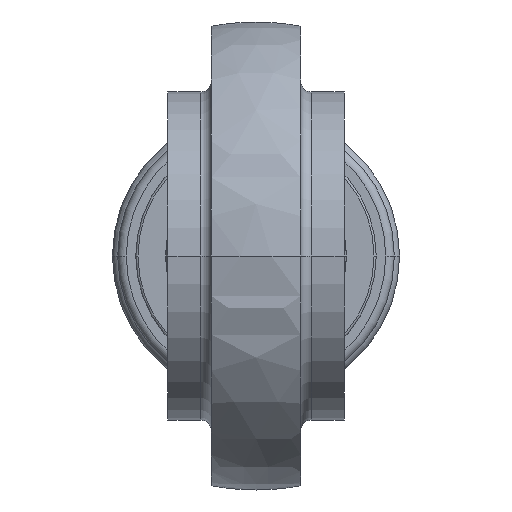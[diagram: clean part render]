
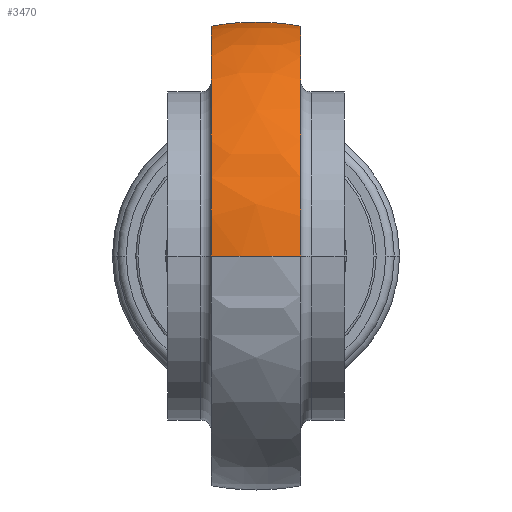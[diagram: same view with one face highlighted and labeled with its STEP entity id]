
A CAD part, front view. The second image highlights one B-rep face of the part: STEP entity #3470.
In plain terms, the highlighted spherical face has radius 110 mm.
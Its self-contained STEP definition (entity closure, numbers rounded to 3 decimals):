
#3000=CARTESIAN_POINT('',(-137.65,-273.919,0.));
#3010=DIRECTION('',(0.,0.,1.));
#3020=DIRECTION('',(1.,0.,0.));
#3030=AXIS2_PLACEMENT_3D('',#3000,#3010,#3020);
#3040=SPHERICAL_SURFACE('',#3030,110.);
#3050=CARTESIAN_POINT('',(-158.65,-273.919,0.));
#3060=DIRECTION('',(-1.,0.,0.));
#3070=DIRECTION('',(0.,1.,0.));
#3080=AXIS2_PLACEMENT_3D('',#3050,#3060,#3070);
#3090=CIRCLE('',#3080,107.977);
#3100=CARTESIAN_POINT('',(-158.65,-381.896,0.));
#3110=VERTEX_POINT('',#3100);
#3120=CARTESIAN_POINT('',(-158.65,-273.919,107.977));
#3130=VERTEX_POINT('',#3120);
#3140=EDGE_CURVE('',#3110,#3130,#3090,.T.);
#3150=ORIENTED_EDGE('',*,*,#3140,.F.);
#3160=CARTESIAN_POINT('',(-137.65,-273.919,0.));
#3170=DIRECTION('',(-0.,1.,0.));
#3180=DIRECTION('',(1.,0.,-0.));
#3190=AXIS2_PLACEMENT_3D('',#3160,#3170,#3180);
#3200=CIRCLE('',#3190,110.);
#3210=CARTESIAN_POINT('',(-137.65,-273.919,110.));
#3220=VERTEX_POINT('',#3210);
#3230=EDGE_CURVE('',#3130,#3220,#3200,.T.);
#3240=ORIENTED_EDGE('',*,*,#3230,.F.);
#3250=CARTESIAN_POINT('',(-116.65,-273.919,107.977));
#3260=VERTEX_POINT('',#3250);
#3270=EDGE_CURVE('',#3220,#3260,#3200,.T.);
#3280=ORIENTED_EDGE('',*,*,#3270,.F.);
#3290=CARTESIAN_POINT('',(-116.65,-273.919,0.));
#3300=DIRECTION('',(1.,-0.,0.));
#3310=DIRECTION('',(0.,-1.,0.));
#3320=AXIS2_PLACEMENT_3D('',#3290,#3300,#3310);
#3330=CIRCLE('',#3320,107.977);
#3340=CARTESIAN_POINT('',(-116.65,-381.896,0.));
#3350=VERTEX_POINT('',#3340);
#3360=EDGE_CURVE('',#3260,#3350,#3330,.T.);
#3370=ORIENTED_EDGE('',*,*,#3360,.F.);
#3380=CARTESIAN_POINT('',(-137.65,-273.919,0.));
#3390=DIRECTION('',(0.,0.,1.));
#3400=DIRECTION('',(-1.,0.,0.));
#3410=AXIS2_PLACEMENT_3D('',#3380,#3390,#3400);
#3420=CIRCLE('',#3410,110.);
#3430=EDGE_CURVE('',#3110,#3350,#3420,.T.);
#3440=ORIENTED_EDGE('',*,*,#3430,.T.);
#3450=EDGE_LOOP('',(#3440,#3370,#3280,#3240,#3150));
#3460=FACE_OUTER_BOUND('',#3450,.T.);
#3470=ADVANCED_FACE('',(#3460),#3040,.T.);
